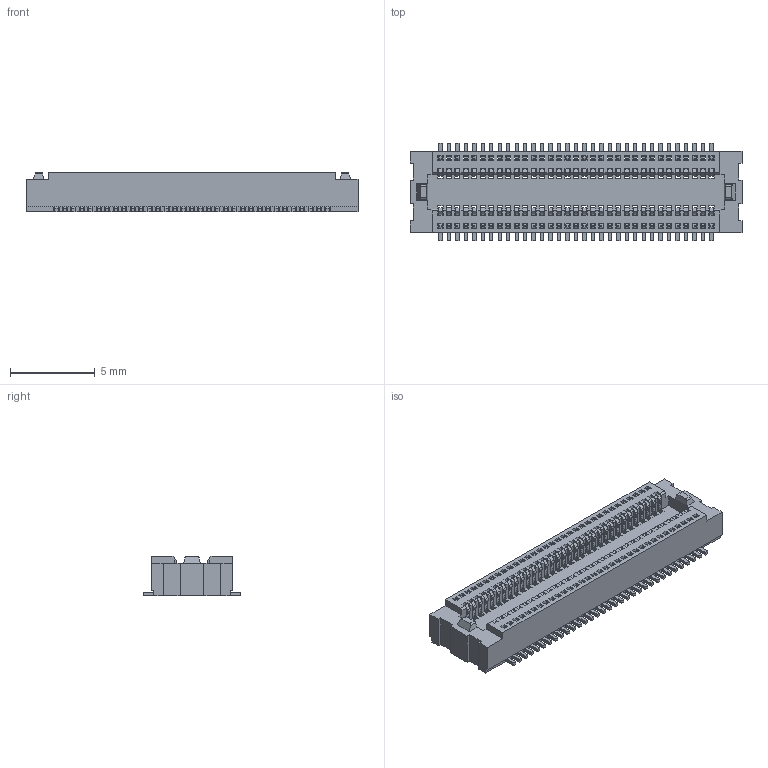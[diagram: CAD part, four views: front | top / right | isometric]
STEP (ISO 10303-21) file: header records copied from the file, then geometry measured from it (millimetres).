
FILE_DESCRIPTION(('CATIA V5 STEP Exchange'),'2;1');
FILE_NAME('F:\黄富鸿\板对板\0.5 单槽\无柱\母座\H2.35\HC-PBB05-1-66-F-H2.35-G1-R-06 (BTB0.5 单槽 母座 立贴 编带)-HCTL.stp','2026-01-20T10:04:31+00:00',('none'),('none'),'CATIA Version 5 Release 20 GA (IN-10)','CATIA V5 STEP AP203','none');
FILE_SCHEMA(('CONFIG_CONTROL_DESIGN'));
Products named in the file (1): Part2
Bounding box: 19.6 x 5.76 x 2.35 mm (x, y, z)
Volume: 143.9 mm3; surface area: 1038 mm2
Topology: 67 solids, 67 shells, 2958 faces, 9062 edges, 6040 vertices
Faces by surface type: plane 2030, cylinder 928
Entity records: 85934 total; most frequent: ORIENTED_EDGE 18124, CARTESIAN_POINT 15415, DIRECTION 9522, EDGE_CURVE 9062, VECTOR 7206, LINE 7206, VERTEX_POINT 6040, EDGE_LOOP 3024
